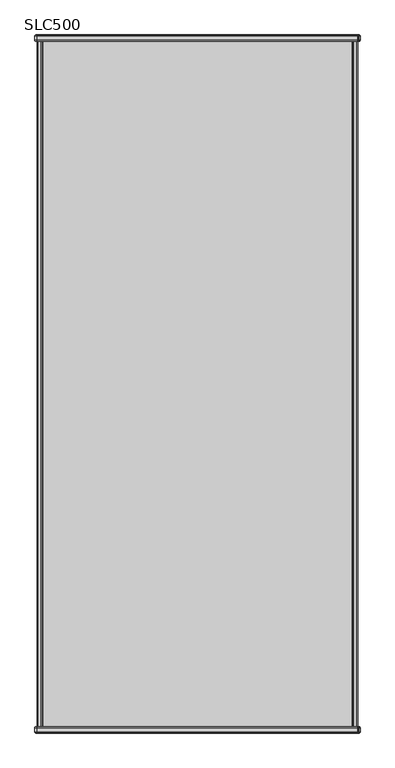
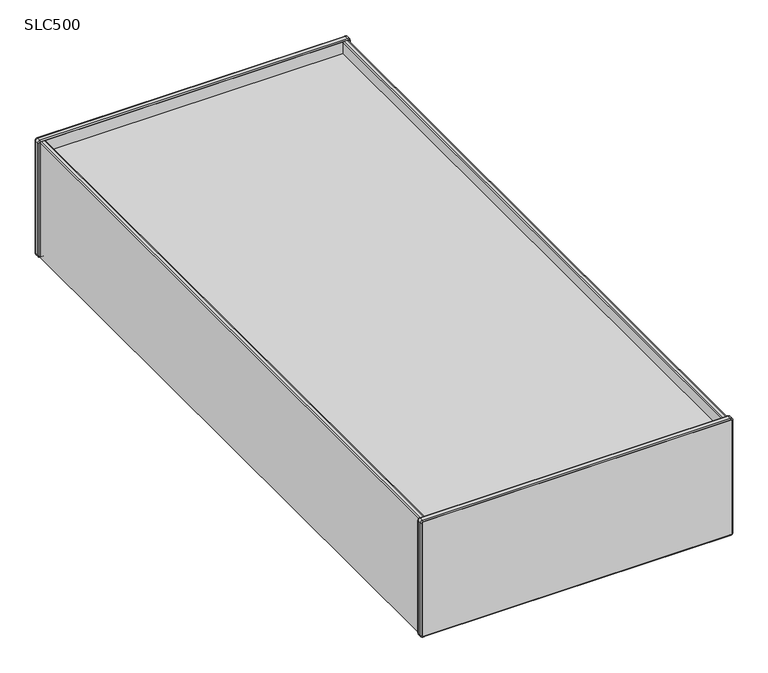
"""IFC4 building model written with IfcOpenShell, lengths in millimetres: furniture geometry, Stance_HC-Lotus-Platform_Bed : SLC500."""

from ifc_helpers import new_model, si_unit, point, frame, frame_2d, origin, place, context, project, spatial, polyline, circle_curve, ellipse_curve, trimmed, segment, composite_curve, outline, extrude, source, transform, mapped, element, save
from ifc_brep_helpers import plane_surface, cylinder_surface, revolved_surface, advanced_brep


def slc500_fc7dbef7(model_context):
    return source(origin(), model_context, "Body", "SolidModel", [
        extrude(outline(polyline([(946.9437258, -2063.75), (24.6062492, -2063.75), (24.6062492, -19.05), (946.9437258, -19.05), (946.9437258, -2063.75)])), frame((0.0, 0.0, 323.85), z_axis=(0.0, 0.0, 1.0), x_axis=(1.0, 0.0, 0.0)), (0.0, 0.0, 1.0), 19.05),
        extrude(outline(composite_curve([segment(polyline([(0.0, 22.2249992), (377.825, 22.2249992)]), True, "CONTINUOUS"), segment(trimmed(circle_curve(frame_2d((377.825, 19.0499992)), 3.175), [point((377.825, 22.2249992))], [point((381.0, 19.0499992))], False, "CARTESIAN"), True, "CONTINUOUS"), segment(polyline([(381.0, 19.0499992), (381.0, 9.5250002)]), True, "CONTINUOUS"), segment(trimmed(circle_curve(frame_2d((377.825, 9.5250002)), 3.175), [point((381.0, 9.5250002))], [point((377.825, 6.3500002))], False, "CARTESIAN"), True, "CONTINUOUS"), segment(polyline([(377.825, 6.3500002), (0.0, 6.3500002), (0.0, 22.2249992)]), True, "CONTINUOUS")], self_intersect=False)), frame((0.0, -2063.75, 0.0), z_axis=(0.0, 1.0, 0.0), x_axis=(0.0, 0.0, 1.0)), (0.0, 0.0, 1.0), 2044.7),
        extrude(outline(composite_curve([segment(polyline([(0.0, 949.3250008), (0.0, 965.1999998), (377.825, 965.1999998)]), True, "CONTINUOUS"), segment(trimmed(circle_curve(frame_2d((377.825, 962.0249998)), 3.175), [point((377.825, 965.1999998))], [point((381.0, 962.0249998))], False, "CARTESIAN"), True, "CONTINUOUS"), segment(polyline([(381.0, 962.0249998), (381.0, 952.5000008)]), True, "CONTINUOUS"), segment(trimmed(circle_curve(frame_2d((377.825, 952.5000008)), 3.175), [point((381.0, 952.5000008))], [point((377.825, 949.3250008))], False, "CARTESIAN"), True, "CONTINUOUS"), segment(polyline([(377.825, 949.3250008), (0.0, 949.3250008)]), True, "CONTINUOUS")], self_intersect=False)), frame((0.0, -2063.75, 0.0), z_axis=(0.0, 1.0, 0.0), x_axis=(0.0, 0.0, 1.0)), (0.0, 0.0, 1.0), 2044.7),
        extrude(outline(composite_curve([segment(trimmed(circle_curve(frame_2d((6.35, 965.2)), 3.1749999), [point((3.1750001, 965.2))], [point((6.35, 968.3749999))], False, "CARTESIAN"), True, "CONTINUOUS"), segment(polyline([(6.35, 968.3749999), (377.8249879, 968.3749999)]), True, "CONTINUOUS"), segment(trimmed(circle_curve(frame_2d((377.8249879, 965.2)), 3.1749999), [point((377.8249879, 968.3749999))], [point((380.9999878, 965.2))], False, "CARTESIAN"), True, "CONTINUOUS"), segment(polyline([(380.9999878, 965.2), (380.9999878, 6.35)]), True, "CONTINUOUS"), segment(trimmed(circle_curve(frame_2d((377.8249879, 6.35)), 3.1749999), [point((380.9999878, 6.35))], [point((377.8249879, 3.1750001))], False, "CARTESIAN"), True, "CONTINUOUS"), segment(polyline([(377.8249879, 3.1750001), (6.35, 3.1750001)]), True, "CONTINUOUS"), segment(trimmed(circle_curve(frame_2d((6.35, 6.35)), 3.1749999), [point((6.35, 3.1750001))], [point((3.1750001, 6.35))], False, "CARTESIAN"), True, "CONTINUOUS"), segment(polyline([(3.1750001, 6.35), (3.1750001, 965.2)]), True, "CONTINUOUS")], self_intersect=False)), frame((0.0, -2082.8, 0.0), z_axis=(0.0, 1.0, 0.0), x_axis=(0.0, 0.0, 1.0)), (0.0, 0.0, 1.0), 19.05),
        extrude(outline(composite_curve([segment(polyline([(3.1750001, 6.35), (3.1750001, 965.2)]), True, "CONTINUOUS"), segment(trimmed(circle_curve(frame_2d((6.35, 965.2)), 3.1749999), [point((3.1750001, 965.2))], [point((6.35, 968.3749999))], False, "CARTESIAN"), True, "CONTINUOUS"), segment(polyline([(6.35, 968.3749999), (377.8249879, 968.3749999)]), True, "CONTINUOUS"), segment(trimmed(circle_curve(frame_2d((377.8249879, 965.2)), 3.1749999), [point((377.8249879, 968.3749999))], [point((380.9999878, 965.2))], False, "CARTESIAN"), True, "CONTINUOUS"), segment(polyline([(380.9999878, 965.2), (380.9999878, 6.35)]), True, "CONTINUOUS"), segment(trimmed(circle_curve(frame_2d((377.8249879, 6.35)), 3.1749999), [point((380.9999878, 6.35))], [point((377.8249879, 3.1750001))], False, "CARTESIAN"), True, "CONTINUOUS"), segment(polyline([(377.8249879, 3.1750001), (6.35, 3.1750001)]), True, "CONTINUOUS"), segment(trimmed(circle_curve(frame_2d((6.35, 6.35)), 3.1749999), [point((6.35, 3.1750001))], [point((3.1750001, 6.35))], False, "CARTESIAN"), True, "CONTINUOUS")], self_intersect=False)), frame((0.0, -19.05, 0.0), z_axis=(0.0, 1.0, 0.0), x_axis=(0.0, 0.0, 1.0)), (0.0, 0.0, 1.0), 19.05),
        advanced_brep(
        [(971.55, -2066.9250001, 6.35), (965.2, -2066.9250001, 0.0), (965.2, -2063.75, 3.1750001), (968.3749999, -2063.75, 6.35), (965.2, -2082.8, 3.1750001), (968.3749999, -2082.8, 6.35), (965.2, -2079.6249999, 0.0), (971.55, -2079.6249999, 6.35), (968.3749999, -2063.75, 377.8249879), (971.55, -2066.9250001, 377.8249879), (968.3749999, -2082.8, 377.8249879), (971.55, -2079.6249999, 377.8249879), (965.2, -2066.9250001, 384.1749879), (965.2, -2063.75, 380.9999878), (965.2, -2082.8, 380.9999878), (965.2, -2079.6249999, 384.1749879), (6.35, -2063.75, 380.9999878), (6.35, -2066.9250001, 384.1749879), (6.35, -2082.8, 380.9999878), (6.35, -2079.6249999, 384.1749879), (0.0, -2066.9250001, 377.8249879), (3.1750001, -2063.75, 377.8249879), (3.1750001, -2082.8, 377.8249879), (0.0, -2079.6249999, 377.8249879), (3.1750001, -2063.75, 6.35), (0.0, -2066.9250001, 6.35), (3.1750001, -2082.8, 6.35), (0.0, -2079.6249999, 6.35), (6.35, -2066.9250001, 0.0), (6.35, -2063.75, 3.1750001), (6.35, -2082.8, 3.1750001), (6.35, -2079.6249999, 0.0)],
        [
            (0, 1, circle_curve(frame((965.2, -2066.9250001, 6.35), z_axis=(0.0, 1.0, 0.0), x_axis=(0.0, 0.0, -1.0)), 6.35)),
            (1, 2, circle_curve(frame((965.2, -2066.9250001, 3.1750001), z_axis=(1.0, 0.0, 0.0), x_axis=(0.0, 0.0, -1.0)), 3.1750001)),
            (2, 3, circle_curve(frame((965.2, -2063.75, 6.35), z_axis=(0.0, -1.0, 0.0), x_axis=(0.0, 0.0, -1.0)), 3.1749999)),
            (3, 0, circle_curve(frame((968.3749999, -2066.9250001, 6.35), z_axis=(0.0, 0.0, -1.0), x_axis=(1.0, 0.0, 0.0)), 3.1750001)),
            (2, 4),
            (4, 5, circle_curve(frame((965.2, -2082.8, 6.35), z_axis=(0.0, -1.0, 0.0), x_axis=(0.0, 0.0, -1.0)), 3.1749999)),
            (5, 3),
            (4, 6, circle_curve(frame((965.2, -2079.6249999, 3.1750001), z_axis=(1.0, 0.0, 0.0), x_axis=(0.0, 0.0, -1.0)), 3.1750001)),
            (6, 7, circle_curve(frame((965.2, -2079.6249999, 6.35), z_axis=(0.0, -1.0, 0.0), x_axis=(0.0, 0.0, -1.0)), 6.35)),
            (7, 5, circle_curve(frame((968.3749999, -2079.6249999, 6.35), z_axis=(0.0, 0.0, -1.0), x_axis=(1.0, 0.0, 0.0)), 3.1750001)),
            (6, 1),
            (0, 7),
            (3, 8),
            (8, 9, circle_curve(frame((968.3749999, -2066.9250001, 377.8249879), z_axis=(0.0, 0.0, -1.0), x_axis=(1.0, 0.0, 0.0)), 3.1750001)),
            (9, 0),
            (5, 10),
            (10, 8),
            (7, 11),
            (11, 10, circle_curve(frame((968.3749999, -2079.6249999, 377.8249879), z_axis=(0.0, 0.0, -1.0), x_axis=(1.0, 0.0, 0.0)), 3.1750001)),
            (9, 11),
            (12, 9, circle_curve(frame((965.2, -2066.9250001, 377.8249879), z_axis=(0.0, 1.0, 0.0), x_axis=(1.0, 0.0, 0.0)), 6.35)),
            (8, 13, circle_curve(frame((965.2, -2063.75, 377.8249879), z_axis=(0.0, -1.0, 0.0), x_axis=(1.0, 0.0, 0.0)), 3.1749999)),
            (13, 12, circle_curve(frame((965.2, -2066.9250001, 380.9999878), z_axis=(1.0, 0.0, 0.0), x_axis=(0.0, 0.0, 1.0)), 3.1750001)),
            (10, 14, circle_curve(frame((965.2, -2082.8, 377.8249879), z_axis=(0.0, -1.0, 0.0), x_axis=(1.0, 0.0, 0.0)), 3.1749999)),
            (14, 13),
            (11, 15, circle_curve(frame((965.2, -2079.6249999, 377.8249879), z_axis=(0.0, -1.0, 0.0), x_axis=(1.0, 0.0, 0.0)), 6.35)),
            (15, 14, circle_curve(frame((965.2, -2079.6249999, 380.9999878), z_axis=(1.0, 0.0, 0.0), x_axis=(0.0, 0.0, 1.0)), 3.1750001)),
            (12, 15),
            (13, 16),
            (16, 17, circle_curve(frame((6.35, -2066.9250001, 380.9999878), z_axis=(1.0, 0.0, 0.0), x_axis=(0.0, 0.0, 1.0)), 3.1750001)),
            (17, 12),
            (14, 18),
            (18, 16),
            (15, 19),
            (19, 18, circle_curve(frame((6.35, -2079.6249999, 380.9999878), z_axis=(1.0, 0.0, 0.0), x_axis=(0.0, 0.0, 1.0)), 3.1750001)),
            (17, 19),
            (20, 17, circle_curve(frame((6.35, -2066.9250001, 377.8249879), z_axis=(0.0, 1.0, 0.0), x_axis=(0.0, 0.0, 1.0)), 6.35)),
            (16, 21, circle_curve(frame((6.35, -2063.75, 377.8249879), z_axis=(0.0, -1.0, 0.0), x_axis=(0.0, 0.0, 1.0)), 3.1749999)),
            (21, 20, circle_curve(frame((3.1750001, -2066.9250001, 377.8249879), z_axis=(0.0, 0.0, 1.0), x_axis=(-1.0, 0.0, 0.0)), 3.1750001)),
            (18, 22, circle_curve(frame((6.35, -2082.8, 377.8249879), z_axis=(0.0, -1.0, 0.0), x_axis=(0.0, 0.0, 1.0)), 3.1749999)),
            (22, 21),
            (19, 23, circle_curve(frame((6.35, -2079.6249999, 377.8249879), z_axis=(0.0, -1.0, 0.0), x_axis=(0.0, 0.0, 1.0)), 6.35)),
            (23, 22, circle_curve(frame((3.1750001, -2079.6249999, 377.8249879), z_axis=(0.0, 0.0, 1.0), x_axis=(-1.0, 0.0, 0.0)), 3.1750001)),
            (20, 23),
            (21, 24),
            (24, 25, circle_curve(frame((3.1750001, -2066.9250001, 6.35), z_axis=(0.0, 0.0, 1.0), x_axis=(-1.0, 0.0, 0.0)), 3.1750001)),
            (25, 20),
            (22, 26),
            (26, 24),
            (23, 27),
            (27, 26, circle_curve(frame((3.1750001, -2079.6249999, 6.35), z_axis=(0.0, 0.0, 1.0), x_axis=(-1.0, 0.0, 0.0)), 3.1750001)),
            (25, 27),
            (28, 25, circle_curve(frame((6.35, -2066.9250001, 6.35), z_axis=(0.0, 1.0, 0.0), x_axis=(-1.0, 0.0, 0.0)), 6.35)),
            (24, 29, circle_curve(frame((6.35, -2063.75, 6.35), z_axis=(0.0, -1.0, 0.0), x_axis=(-1.0, 0.0, 0.0)), 3.1749999)),
            (29, 28, circle_curve(frame((6.35, -2066.9250001, 3.1750001), z_axis=(-1.0, 0.0, 0.0), x_axis=(0.0, 0.0, -1.0)), 3.1750001)),
            (26, 30, circle_curve(frame((6.35, -2082.8, 6.35), z_axis=(0.0, -1.0, 0.0), x_axis=(-1.0, 0.0, 0.0)), 3.1749999)),
            (30, 29),
            (27, 31, circle_curve(frame((6.35, -2079.6249999, 6.35), z_axis=(0.0, -1.0, 0.0), x_axis=(-1.0, 0.0, 0.0)), 6.35)),
            (31, 30, circle_curve(frame((6.35, -2079.6249999, 3.1750001), z_axis=(-1.0, 0.0, 0.0), x_axis=(0.0, 0.0, -1.0)), 3.1750001)),
            (28, 31),
            (29, 2),
            (1, 28),
            (30, 4),
            (31, 6),
        ],
        [
            revolved_surface(trimmed(ellipse_curve(frame((965.2, -2066.9250001, 3.1750001), z_axis=(-1.0, 0.0, 0.0), x_axis=(0.0, 0.0, -1.0)), 3.1750001, 3.1750001), [point((965.2, -2063.75, 3.1750001))], [point((965.2, -2066.9250001, 0.0))], True, "CARTESIAN"), (965.2, -2082.8, 6.35), (0.0, -1.0, 0.0)),
            revolved_surface(polyline([(965.2, -2082.8, 3.1750000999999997), (965.2, -2063.75, 3.1750000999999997)]), (965.2, -2082.8, 6.35), (0.0, -1.0, 0.0)),
            revolved_surface(trimmed(ellipse_curve(frame((965.2, -2079.6249999, 3.1750001), z_axis=(-1.0, 0.0, 0.0), x_axis=(0.0, 0.0, -1.0)), 3.1750001, 3.1750001), [point((965.2, -2079.6249999, 0.0))], [point((965.2, -2082.8, 3.1750001))], True, "CARTESIAN"), (965.2, -2082.8, 6.35), (0.0, -1.0, 0.0)),
            cylinder_surface(frame((965.2, -2082.8, 6.35), z_axis=(0.0, -1.0, 0.0), x_axis=(0.0, 0.0, -1.0)), 6.35),
            cylinder_surface(frame((968.3749999, -2066.9250001, 6.35), z_axis=(0.0, 0.0, -1.0), x_axis=(1.0, 0.0, 0.0)), 3.1750001),
            plane_surface(frame((968.3749999, -2082.8, 6.35), z_axis=(-1.0, 0.0, 0.0), x_axis=(0.0, 0.0, 1.0))),
            cylinder_surface(frame((968.3749999, -2079.6249999, 6.35), z_axis=(0.0, 0.0, -1.0), x_axis=(1.0, 0.0, 0.0)), 3.1750001),
            plane_surface(frame((971.55, -2066.9250001, 6.35), z_axis=(1.0, 0.0, 0.0), x_axis=(0.0, 0.0, 1.0))),
            revolved_surface(trimmed(ellipse_curve(frame((968.3749999, -2066.9250001, 377.8249879), z_axis=(0.0, 0.0, -1.0), x_axis=(1.0, 0.0, 0.0)), 3.1750001, 3.1750001), [point((968.3749999, -2063.75, 377.8249879))], [point((971.55, -2066.9250001, 377.8249879))], True, "CARTESIAN"), (965.2, -2082.8, 377.8249879), (0.0, -1.0, 0.0)),
            revolved_surface(polyline([(968.3749999, -2082.8, 377.8249879), (968.3749999, -2063.75, 377.8249879)]), (965.2, -2082.8, 377.8249879), (0.0, -1.0, 0.0)),
            revolved_surface(trimmed(ellipse_curve(frame((968.3749999, -2079.6249999, 377.8249879), z_axis=(0.0, 0.0, -1.0), x_axis=(1.0, 0.0, 0.0)), 3.1750001, 3.1750001), [point((971.55, -2079.6249999, 377.8249879))], [point((968.3749999, -2082.8, 377.8249879))], True, "CARTESIAN"), (965.2, -2082.8, 377.8249879), (0.0, -1.0, 0.0)),
            cylinder_surface(frame((965.2, -2082.8, 377.8249879), z_axis=(0.0, -1.0, 0.0), x_axis=(1.0, 0.0, 0.0)), 6.35),
            cylinder_surface(frame((965.2, -2066.9250001, 380.9999878), z_axis=(1.0, 0.0, 0.0), x_axis=(0.0, 0.0, 1.0)), 3.1750001),
            plane_surface(frame((965.2, -2082.8, 380.9999878), z_axis=(0.0, 0.0, -1.0), x_axis=(-1.0, 0.0, 0.0))),
            cylinder_surface(frame((965.2, -2079.6249999, 380.9999878), z_axis=(1.0, 0.0, 0.0), x_axis=(0.0, 0.0, 1.0)), 3.1750001),
            plane_surface(frame((965.2, -2066.9250001, 384.1749879), z_axis=(0.0, 0.0, 1.0), x_axis=(-1.0, 0.0, 0.0))),
            revolved_surface(trimmed(ellipse_curve(frame((6.35, -2066.9250001, 380.9999878), z_axis=(1.0, 0.0, 0.0), x_axis=(0.0, 0.0, 1.0)), 3.1750001, 3.1750001), [point((6.35, -2063.75, 380.9999878))], [point((6.35, -2066.9250001, 384.1749879))], True, "CARTESIAN"), (6.35, -2082.8, 377.8249879), (0.0, -1.0, 0.0)),
            revolved_surface(polyline([(6.35, -2082.8, 380.9999878), (6.35, -2063.75, 380.9999878)]), (6.35, -2082.8, 377.8249879), (0.0, -1.0, 0.0)),
            revolved_surface(trimmed(ellipse_curve(frame((6.35, -2079.6249999, 380.9999878), z_axis=(1.0, 0.0, 0.0), x_axis=(0.0, 0.0, 1.0)), 3.1750001, 3.1750001), [point((6.35, -2079.6249999, 384.1749879))], [point((6.35, -2082.8, 380.9999878))], True, "CARTESIAN"), (6.35, -2082.8, 377.8249879), (0.0, -1.0, 0.0)),
            cylinder_surface(frame((6.35, -2082.8, 377.8249879), z_axis=(0.0, -1.0, 0.0), x_axis=(0.0, 0.0, 1.0)), 6.35),
            cylinder_surface(frame((3.1750001, -2066.9250001, 377.8249879), z_axis=(0.0, 0.0, 1.0), x_axis=(-1.0, 0.0, 0.0)), 3.1750001),
            plane_surface(frame((3.1750001, -2082.8, 377.8249879), z_axis=(1.0, 0.0, 0.0), x_axis=(0.0, 0.0, -1.0))),
            cylinder_surface(frame((3.1750001, -2079.6249999, 377.8249879), z_axis=(0.0, 0.0, 1.0), x_axis=(-1.0, 0.0, 0.0)), 3.1750001),
            plane_surface(frame((0.0, -2066.9250001, 377.8249879), z_axis=(-1.0, 0.0, 0.0), x_axis=(0.0, 0.0, -1.0))),
            revolved_surface(trimmed(ellipse_curve(frame((3.1750001, -2066.9250001, 6.35), z_axis=(0.0, 0.0, 1.0), x_axis=(-1.0, 0.0, 0.0)), 3.1750001, 3.1750001), [point((3.1750001, -2063.75, 6.35))], [point((0.0, -2066.9250001, 6.35))], True, "CARTESIAN"), (6.35, -2082.8, 6.35), (0.0, -1.0, 0.0)),
            revolved_surface(polyline([(3.1750000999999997, -2082.8, 6.35), (3.1750000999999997, -2063.75, 6.35)]), (6.35, -2082.8, 6.35), (0.0, -1.0, 0.0)),
            revolved_surface(trimmed(ellipse_curve(frame((3.1750001, -2079.6249999, 6.35), z_axis=(0.0, 0.0, 1.0), x_axis=(-1.0, 0.0, 0.0)), 3.1750001, 3.1750001), [point((0.0, -2079.6249999, 6.35))], [point((3.1750001, -2082.8, 6.35))], True, "CARTESIAN"), (6.35, -2082.8, 6.35), (0.0, -1.0, 0.0)),
            cylinder_surface(frame((6.35, -2082.8, 6.35), z_axis=(0.0, -1.0, 0.0), x_axis=(-1.0, 0.0, 0.0)), 6.35),
            cylinder_surface(frame((6.35, -2066.9250001, 3.1750001), z_axis=(-1.0, 0.0, 0.0), x_axis=(0.0, 0.0, -1.0)), 3.1750001),
            plane_surface(frame((6.35, -2082.8, 3.1750001), z_axis=(0.0, 0.0, 1.0), x_axis=(1.0, 0.0, 0.0))),
            cylinder_surface(frame((6.35, -2079.6249999, 3.1750001), z_axis=(-1.0, 0.0, 0.0), x_axis=(0.0, 0.0, -1.0)), 3.1750001),
            plane_surface(frame((6.35, -2066.9250001, 0.0), z_axis=(0.0, 0.0, -1.0), x_axis=(1.0, 0.0, 0.0))),
        ],
        [
            (0, [[1, 2, 3, 4]]),
            (1, [[-3, 5, 6, 7]]),
            (2, [[-6, 8, 9, 10]]),
            (3, [[-9, 11, -1, 12]]),
            (4, [[-4, 13, 14, 15]]),
            (5, [[-7, 16, 17, -13]]),
            (6, [[-10, 18, 19, -16]]),
            (7, [[-12, -15, 20, -18]]),
            (8, [[21, -14, 22, 23]]),
            (9, [[-22, -17, 24, 25]]),
            (10, [[-24, -19, 26, 27]]),
            (11, [[-26, -20, -21, 28]]),
            (12, [[-23, 29, 30, 31]]),
            (13, [[-25, 32, 33, -29]]),
            (14, [[-27, 34, 35, -32]]),
            (15, [[-28, -31, 36, -34]]),
            (16, [[37, -30, 38, 39]]),
            (17, [[-38, -33, 40, 41]]),
            (18, [[-40, -35, 42, 43]]),
            (19, [[-42, -36, -37, 44]]),
            (20, [[-39, 45, 46, 47]]),
            (21, [[-41, 48, 49, -45]]),
            (22, [[-43, 50, 51, -48]]),
            (23, [[-44, -47, 52, -50]]),
            (24, [[53, -46, 54, 55]]),
            (25, [[-54, -49, 56, 57]]),
            (26, [[-56, -51, 58, 59]]),
            (27, [[-58, -52, -53, 60]]),
            (28, [[-55, 61, -2, 62]]),
            (29, [[-57, 63, -5, -61]]),
            (30, [[-59, 64, -8, -63]]),
            (31, [[-60, -62, -11, -64]]),
        ],
    ),
        advanced_brep(
        [(968.3749999, -19.05, 6.35), (965.2, -19.05, 3.1750001), (965.2, -15.8749999, 0.0), (971.55, -15.8749999, 6.35), (968.3749999, 0.0, 6.35), (965.2, 0.0, 3.1750001), (971.55, -3.1750001, 6.35), (965.2, -3.1750001, 0.0), (971.55, -15.8749999, 377.8249879), (968.3749999, -19.05, 377.8249879), (968.3749999, 0.0, 377.8249879), (971.55, -3.1750001, 377.8249879), (965.2, -19.05, 380.9999878), (965.2, -15.8749999, 384.1749879), (965.2, 0.0, 380.9999878), (965.2, -3.1750001, 384.1749879), (6.35, -15.8749999, 384.1749879), (6.35, -19.05, 380.9999878), (6.35, 0.0, 380.9999878), (6.35, -3.1750001, 384.1749879), (3.1750001, -19.05, 377.8249879), (0.0, -15.8749999, 377.8249879), (3.1750001, 0.0, 377.8249879), (0.0, -3.1750001, 377.8249879), (0.0, -15.8749999, 6.35), (3.1750001, -19.05, 6.35), (3.1750001, 0.0, 6.35), (0.0, -3.1750001, 6.35), (6.35, -19.05, 3.1750001), (6.35, -15.8749999, 0.0), (6.35, 0.0, 3.1750001), (6.35, -3.1750001, 0.0)],
        [
            (0, 1, circle_curve(frame((965.2, -19.05, 6.35), z_axis=(0.0, 1.0, 0.0), x_axis=(0.0, 0.0, -1.0)), 3.1749999)),
            (1, 2, circle_curve(frame((965.2, -15.8749999, 3.1750001), z_axis=(1.0, 0.0, 0.0), x_axis=(0.0, 0.0, 1.0)), 3.1750001)),
            (2, 3, circle_curve(frame((965.2, -15.8749999, 6.35), z_axis=(0.0, -1.0, 0.0), x_axis=(0.0, 0.0, -1.0)), 6.35)),
            (3, 0, circle_curve(frame((968.3749999, -15.8749999, 6.35), z_axis=(0.0, 0.0, -1.0), x_axis=(-1.0, 0.0, 0.0)), 3.1750001)),
            (4, 5, circle_curve(frame((965.2, 0.0, 6.35), z_axis=(0.0, 1.0, 0.0), x_axis=(0.0, 0.0, -1.0)), 3.1749999)),
            (5, 1),
            (0, 4),
            (6, 7, circle_curve(frame((965.2, -3.1750001, 6.35), z_axis=(0.0, 1.0, 0.0), x_axis=(0.0, 0.0, -1.0)), 6.35)),
            (7, 5, circle_curve(frame((965.2, -3.1750001, 3.1750001), z_axis=(1.0, 0.0, 0.0), x_axis=(0.0, 0.0, 1.0)), 3.1750001)),
            (4, 6, circle_curve(frame((968.3749999, -3.1750001, 6.35), z_axis=(0.0, 0.0, -1.0), x_axis=(-1.0, 0.0, 0.0)), 3.1750001)),
            (2, 7),
            (6, 3),
            (3, 8),
            (8, 9, circle_curve(frame((968.3749999, -15.8749999, 377.8249879), z_axis=(0.0, 0.0, -1.0), x_axis=(-1.0, 0.0, 0.0)), 3.1750001)),
            (9, 0),
            (9, 10),
            (10, 4),
            (10, 11, circle_curve(frame((968.3749999, -3.1750001, 377.8249879), z_axis=(0.0, 0.0, -1.0), x_axis=(-1.0, 0.0, 0.0)), 3.1750001)),
            (11, 6),
            (11, 8),
            (12, 9, circle_curve(frame((965.2, -19.05, 377.8249879), z_axis=(0.0, 1.0, 0.0), x_axis=(1.0, 0.0, 0.0)), 3.1749999)),
            (8, 13, circle_curve(frame((965.2, -15.8749999, 377.8249879), z_axis=(0.0, -1.0, 0.0), x_axis=(1.0, 0.0, 0.0)), 6.35)),
            (13, 12, circle_curve(frame((965.2, -15.8749999, 380.9999878), z_axis=(1.0, 0.0, 0.0), x_axis=(0.0, 0.0, -1.0)), 3.1750001)),
            (14, 10, circle_curve(frame((965.2, 0.0, 377.8249879), z_axis=(0.0, 1.0, 0.0), x_axis=(1.0, 0.0, 0.0)), 3.1749999)),
            (12, 14),
            (15, 11, circle_curve(frame((965.2, -3.1750001, 377.8249879), z_axis=(0.0, 1.0, 0.0), x_axis=(1.0, 0.0, 0.0)), 6.35)),
            (14, 15, circle_curve(frame((965.2, -3.1750001, 380.9999878), z_axis=(1.0, 0.0, 0.0), x_axis=(0.0, 0.0, -1.0)), 3.1750001)),
            (15, 13),
            (13, 16),
            (16, 17, circle_curve(frame((6.35, -15.8749999, 380.9999878), z_axis=(1.0, 0.0, 0.0), x_axis=(0.0, 0.0, -1.0)), 3.1750001)),
            (17, 12),
            (17, 18),
            (18, 14),
            (18, 19, circle_curve(frame((6.35, -3.1750001, 380.9999878), z_axis=(1.0, 0.0, 0.0), x_axis=(0.0, 0.0, -1.0)), 3.1750001)),
            (19, 15),
            (19, 16),
            (20, 17, circle_curve(frame((6.35, -19.05, 377.8249879), z_axis=(0.0, 1.0, 0.0), x_axis=(0.0, 0.0, 1.0)), 3.1749999)),
            (16, 21, circle_curve(frame((6.35, -15.8749999, 377.8249879), z_axis=(0.0, -1.0, 0.0), x_axis=(0.0, 0.0, 1.0)), 6.35)),
            (21, 20, circle_curve(frame((3.1750001, -15.8749999, 377.8249879), z_axis=(0.0, 0.0, 1.0), x_axis=(1.0, 0.0, 0.0)), 3.1750001)),
            (22, 18, circle_curve(frame((6.35, 0.0, 377.8249879), z_axis=(0.0, 1.0, 0.0), x_axis=(0.0, 0.0, 1.0)), 3.1749999)),
            (20, 22),
            (23, 19, circle_curve(frame((6.35, -3.1750001, 377.8249879), z_axis=(0.0, 1.0, 0.0), x_axis=(0.0, 0.0, 1.0)), 6.35)),
            (22, 23, circle_curve(frame((3.1750001, -3.1750001, 377.8249879), z_axis=(0.0, 0.0, 1.0), x_axis=(1.0, 0.0, 0.0)), 3.1750001)),
            (23, 21),
            (21, 24),
            (24, 25, circle_curve(frame((3.1750001, -15.8749999, 6.35), z_axis=(0.0, 0.0, 1.0), x_axis=(1.0, 0.0, 0.0)), 3.1750001)),
            (25, 20),
            (25, 26),
            (26, 22),
            (26, 27, circle_curve(frame((3.1750001, -3.1750001, 6.35), z_axis=(0.0, 0.0, 1.0), x_axis=(1.0, 0.0, 0.0)), 3.1750001)),
            (27, 23),
            (27, 24),
            (28, 25, circle_curve(frame((6.35, -19.05, 6.35), z_axis=(0.0, 1.0, 0.0), x_axis=(-1.0, 0.0, 0.0)), 3.1749999)),
            (24, 29, circle_curve(frame((6.35, -15.8749999, 6.35), z_axis=(0.0, -1.0, 0.0), x_axis=(-1.0, 0.0, 0.0)), 6.35)),
            (29, 28, circle_curve(frame((6.35, -15.8749999, 3.1750001), z_axis=(-1.0, 0.0, 0.0), x_axis=(0.0, 0.0, 1.0)), 3.1750001)),
            (30, 26, circle_curve(frame((6.35, 0.0, 6.35), z_axis=(0.0, 1.0, 0.0), x_axis=(-1.0, 0.0, 0.0)), 3.1749999)),
            (28, 30),
            (31, 27, circle_curve(frame((6.35, -3.1750001, 6.35), z_axis=(0.0, 1.0, 0.0), x_axis=(-1.0, 0.0, 0.0)), 6.35)),
            (30, 31, circle_curve(frame((6.35, -3.1750001, 3.1750001), z_axis=(-1.0, 0.0, 0.0), x_axis=(0.0, 0.0, 1.0)), 3.1750001)),
            (31, 29),
            (29, 2),
            (1, 28),
            (5, 30),
            (7, 31),
        ],
        [
            revolved_surface(trimmed(ellipse_curve(frame((965.2, -15.8749999, 3.1750001), z_axis=(-1.0, 0.0, 0.0), x_axis=(0.0, 0.0, 1.0)), 3.1750001, 3.1750001), [point((965.2, -15.8749999, 0.0))], [point((965.2, -19.05, 3.1750001))], True, "CARTESIAN"), (965.2, 0.0, 6.35), (0.0, -1.0, 0.0)),
            revolved_surface(polyline([(965.2, -19.05, 3.1750000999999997), (965.2, 0.0, 3.1750000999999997)]), (965.2, 0.0, 6.35), (0.0, -1.0, 0.0)),
            revolved_surface(trimmed(ellipse_curve(frame((965.2, -3.1750001, 3.1750001), z_axis=(-1.0, 0.0, 0.0), x_axis=(0.0, 0.0, 1.0)), 3.1750001, 3.1750001), [point((965.2, 0.0, 3.1750001))], [point((965.2, -3.1750001, 0.0))], True, "CARTESIAN"), (965.2, 0.0, 6.35), (0.0, -1.0, 0.0)),
            cylinder_surface(frame((965.2, 0.0, 6.35), z_axis=(0.0, -1.0, 0.0), x_axis=(0.0, 0.0, -1.0)), 6.35),
            cylinder_surface(frame((968.3749999, -15.8749999, 6.35), z_axis=(0.0, 0.0, -1.0), x_axis=(-1.0, 0.0, 0.0)), 3.1750001),
            plane_surface(frame((968.3749999, -19.05, 6.35), z_axis=(-1.0, 0.0, 0.0), x_axis=(0.0, 0.0, 1.0))),
            cylinder_surface(frame((968.3749999, -3.1750001, 6.35), z_axis=(0.0, 0.0, -1.0), x_axis=(-1.0, 0.0, 0.0)), 3.1750001),
            plane_surface(frame((971.55, -3.1750001, 6.35), z_axis=(1.0, 0.0, 0.0), x_axis=(0.0, 0.0, 1.0))),
            revolved_surface(trimmed(ellipse_curve(frame((968.3749999, -15.8749999, 377.8249879), z_axis=(0.0, 0.0, -1.0), x_axis=(-1.0, 0.0, 0.0)), 3.1750001, 3.1750001), [point((971.55, -15.8749999, 377.8249879))], [point((968.3749999, -19.05, 377.8249879))], True, "CARTESIAN"), (965.2, 0.0, 377.8249879), (0.0, -1.0, 0.0)),
            revolved_surface(polyline([(968.3749999, -19.05, 377.8249879), (968.3749999, 0.0, 377.8249879)]), (965.2, 0.0, 377.8249879), (0.0, -1.0, 0.0)),
            revolved_surface(trimmed(ellipse_curve(frame((968.3749999, -3.1750001, 377.8249879), z_axis=(0.0, 0.0, -1.0), x_axis=(-1.0, 0.0, 0.0)), 3.1750001, 3.1750001), [point((968.3749999, 0.0, 377.8249879))], [point((971.55, -3.1750001, 377.8249879))], True, "CARTESIAN"), (965.2, 0.0, 377.8249879), (0.0, -1.0, 0.0)),
            cylinder_surface(frame((965.2, 0.0, 377.8249879), z_axis=(0.0, -1.0, 0.0), x_axis=(1.0, 0.0, 0.0)), 6.35),
            cylinder_surface(frame((965.2, -15.8749999, 380.9999878), z_axis=(1.0, 0.0, 0.0), x_axis=(0.0, 0.0, -1.0)), 3.1750001),
            plane_surface(frame((965.2, -19.05, 380.9999878), z_axis=(0.0, 0.0, -1.0), x_axis=(-1.0, 0.0, 0.0))),
            cylinder_surface(frame((965.2, -3.1750001, 380.9999878), z_axis=(1.0, 0.0, 0.0), x_axis=(0.0, 0.0, -1.0)), 3.1750001),
            plane_surface(frame((965.2, -3.1750001, 384.1749879), z_axis=(0.0, 0.0, 1.0), x_axis=(-1.0, 0.0, 0.0))),
            revolved_surface(trimmed(ellipse_curve(frame((6.35, -15.8749999, 380.9999878), z_axis=(1.0, 0.0, 0.0), x_axis=(0.0, 0.0, -1.0)), 3.1750001, 3.1750001), [point((6.35, -15.8749999, 384.1749879))], [point((6.35, -19.05, 380.9999878))], True, "CARTESIAN"), (6.35, 0.0, 377.8249879), (0.0, -1.0, 0.0)),
            revolved_surface(polyline([(6.35, -19.05, 380.9999878), (6.35, 0.0, 380.9999878)]), (6.35, 0.0, 377.8249879), (0.0, -1.0, 0.0)),
            revolved_surface(trimmed(ellipse_curve(frame((6.35, -3.1750001, 380.9999878), z_axis=(1.0, 0.0, 0.0), x_axis=(0.0, 0.0, -1.0)), 3.1750001, 3.1750001), [point((6.35, 0.0, 380.9999878))], [point((6.35, -3.1750001, 384.1749879))], True, "CARTESIAN"), (6.35, 0.0, 377.8249879), (0.0, -1.0, 0.0)),
            cylinder_surface(frame((6.35, 0.0, 377.8249879), z_axis=(0.0, -1.0, 0.0), x_axis=(0.0, 0.0, 1.0)), 6.35),
            cylinder_surface(frame((3.1750001, -15.8749999, 377.8249879), z_axis=(0.0, 0.0, 1.0), x_axis=(1.0, 0.0, 0.0)), 3.1750001),
            plane_surface(frame((3.1750001, -19.05, 377.8249879), z_axis=(1.0, 0.0, 0.0), x_axis=(0.0, 0.0, -1.0))),
            cylinder_surface(frame((3.1750001, -3.1750001, 377.8249879), z_axis=(0.0, 0.0, 1.0), x_axis=(1.0, 0.0, 0.0)), 3.1750001),
            plane_surface(frame((0.0, -3.1750001, 377.8249879), z_axis=(-1.0, 0.0, 0.0), x_axis=(0.0, 0.0, -1.0))),
            revolved_surface(trimmed(ellipse_curve(frame((3.1750001, -15.8749999, 6.35), z_axis=(0.0, 0.0, 1.0), x_axis=(1.0, 0.0, 0.0)), 3.1750001, 3.1750001), [point((0.0, -15.8749999, 6.35))], [point((3.1750001, -19.05, 6.35))], True, "CARTESIAN"), (6.35, 0.0, 6.35), (0.0, -1.0, 0.0)),
            revolved_surface(polyline([(3.1750000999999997, -19.05, 6.35), (3.1750000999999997, 0.0, 6.35)]), (6.35, 0.0, 6.35), (0.0, -1.0, 0.0)),
            revolved_surface(trimmed(ellipse_curve(frame((3.1750001, -3.1750001, 6.35), z_axis=(0.0, 0.0, 1.0), x_axis=(1.0, 0.0, 0.0)), 3.1750001, 3.1750001), [point((3.1750001, 0.0, 6.35))], [point((0.0, -3.1750001, 6.35))], True, "CARTESIAN"), (6.35, 0.0, 6.35), (0.0, -1.0, 0.0)),
            cylinder_surface(frame((6.35, 0.0, 6.35), z_axis=(0.0, -1.0, 0.0), x_axis=(-1.0, 0.0, 0.0)), 6.35),
            cylinder_surface(frame((6.35, -15.8749999, 3.1750001), z_axis=(-1.0, 0.0, 0.0), x_axis=(0.0, 0.0, 1.0)), 3.1750001),
            plane_surface(frame((6.35, -19.05, 3.1750001), z_axis=(0.0, 0.0, 1.0), x_axis=(1.0, 0.0, 0.0))),
            cylinder_surface(frame((6.35, -3.1750001, 3.1750001), z_axis=(-1.0, 0.0, 0.0), x_axis=(0.0, 0.0, 1.0)), 3.1750001),
            plane_surface(frame((6.35, -3.1750001, 0.0), z_axis=(0.0, 0.0, -1.0), x_axis=(1.0, 0.0, 0.0))),
        ],
        [
            (0, [[1, 2, 3, 4]]),
            (1, [[5, 6, -1, 7]]),
            (2, [[8, 9, -5, 10]]),
            (3, [[-3, 11, -8, 12]]),
            (4, [[-4, 13, 14, 15]]),
            (5, [[-7, -15, 16, 17]]),
            (6, [[-10, -17, 18, 19]]),
            (7, [[-12, -19, 20, -13]]),
            (8, [[21, -14, 22, 23]]),
            (9, [[24, -16, -21, 25]]),
            (10, [[26, -18, -24, 27]]),
            (11, [[-22, -20, -26, 28]]),
            (12, [[-23, 29, 30, 31]]),
            (13, [[-25, -31, 32, 33]]),
            (14, [[-27, -33, 34, 35]]),
            (15, [[-28, -35, 36, -29]]),
            (16, [[37, -30, 38, 39]]),
            (17, [[40, -32, -37, 41]]),
            (18, [[42, -34, -40, 43]]),
            (19, [[-38, -36, -42, 44]]),
            (20, [[-39, 45, 46, 47]]),
            (21, [[-41, -47, 48, 49]]),
            (22, [[-43, -49, 50, 51]]),
            (23, [[-44, -51, 52, -45]]),
            (24, [[53, -46, 54, 55]]),
            (25, [[56, -48, -53, 57]]),
            (26, [[58, -50, -56, 59]]),
            (27, [[-54, -52, -58, 60]]),
            (28, [[-55, 61, -2, 62]]),
            (29, [[-57, -62, -6, 63]]),
            (30, [[-59, -63, -9, 64]]),
            (31, [[-60, -64, -11, -61]]),
        ],
    ),
    ])


if __name__ == "__main__":
    model = new_model("IFC4")
    model_context = context("Model", 3, world=origin())
    ifc_project = project(units=[si_unit("LENGTHUNIT", "METRE", prefix="MILLI")], contexts=[model_context])
    site = spatial("IfcSite", under=ifc_project)
    building = spatial("IfcBuilding", under=site)
    placement = place(None, origin())
    slc500_shape = slc500_fc7dbef7(model_context)
    element("IfcFurniture", 1, ObjectType="Stance_HC-Lotus-Platform_Bed : SLC500", at=placement, inside=building, context=model_context, shape_type="MappedRepresentation", body=[
        mapped(slc500_shape, transform((0.0, 0.0, 0.0), x_axis=(1.0, 0.0, 0.0), y_axis=(0.0, 1.0, 0.0), z_axis=(0.0, 0.0, 1.0))),
    ])
    save(model, "model.ifc")
